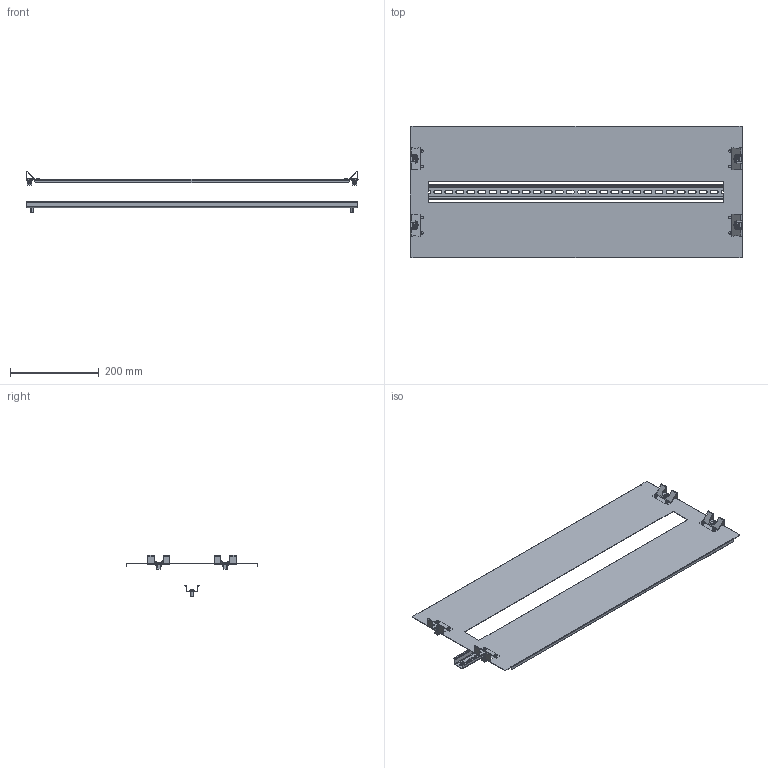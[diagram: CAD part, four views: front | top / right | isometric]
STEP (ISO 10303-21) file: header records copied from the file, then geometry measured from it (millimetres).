
FILE_DESCRIPTION (( 'STEP AP203' ), '1' );
FILE_NAME ('R5ISP830.STEP', '2022-04-13T09:30:47', ( '' ), ( '' ), 'SwSTEP 2.0', 'SolidWorks 2020', '' );
FILE_SCHEMA (( 'CONFIG_CONTROL_DESIGN' ));
Length unit declared in the file: millimetre
Products named in the file (11): RB.0392.00.02.0_-01; RB.0517.00.00.0_-04; 294-9118.00-00050; R5ISP830; RB.0376.00.00.0_-00; M5x12 DIN 7500 C Torx Zinc_stright; RB.2137.00.01.0_-08; RB.2137.00.00.0 捘_-08
Assembly tree (17 placements, depth 3):
  R5ISP830
    RB.2137.00.00.0 捘_-08
      RB.2137.00.01.0_-08
      RB.0392.00.02.0_-01
      RB.0392.00.02.0_-01
      RB.0392.00.02.0_-01
      RB.0392.00.02.0_-01
    RB.0517.00.00.0_-04
    M5x12 DIN 7500 C Torx Zinc_stright  x2
    294-9118.00-00050  x4
    RB.0376.00.00.0_-00  x4
Bounding box: 750 x 298 x 93.03 mm (x, y, z)
Volume: 274959.2 mm3; surface area: 513854.3 mm2
Topology: 16 solids, 16 shells, 1174 faces, 2938 edges, 1834 vertices
Faces by surface type: plane 780, cylinder 274, cone 40, bspline 36, torus 24, sphere 20
Entity records: 24343 total; most frequent: CARTESIAN_POINT 4324, DIRECTION 3916, ORIENTED_EDGE 3808, EDGE_CURVE 1904, LINE 1358, VECTOR 1358, AXIS2_PLACEMENT_3D 1279, VERTEX_POINT 1207
